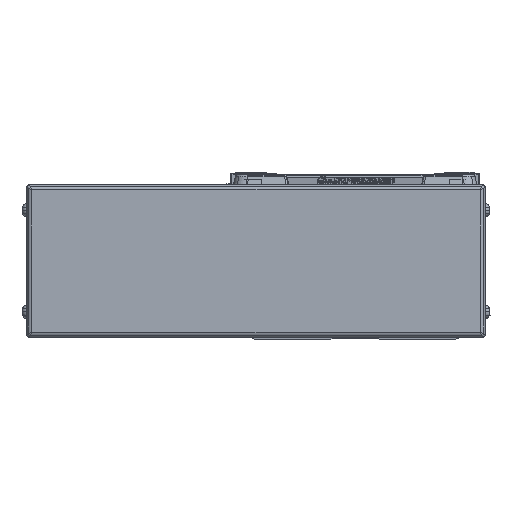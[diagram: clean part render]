
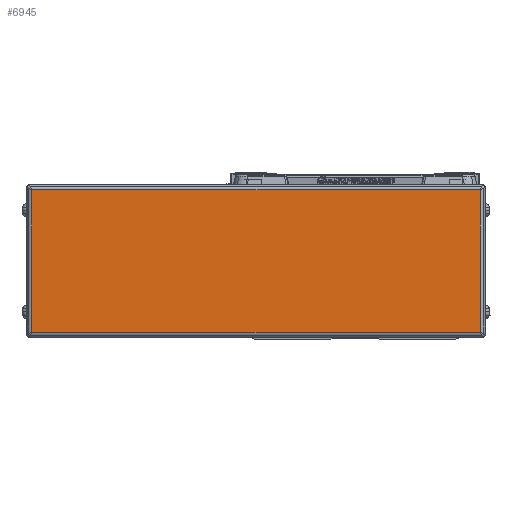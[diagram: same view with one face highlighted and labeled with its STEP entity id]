
A CAD part, left-side view. The second image highlights one B-rep face of the part: STEP entity #6945.
In plain terms, the highlighted planar face has unit normal (-1, 0, 0).
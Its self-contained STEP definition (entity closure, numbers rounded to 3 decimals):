
#6945=ADVANCED_FACE('',(#14221),#14222,.F.);
#14221=FACE_OUTER_BOUND('',#22501,.T.);
#14222=PLANE('',#22502);
#22501=EDGE_LOOP('',(#42337,#42338,#42339,#42340));
#22502=AXIS2_PLACEMENT_3D('',#42341,#42342,#42343);
#42337=ORIENTED_EDGE('',*,*,#52944,.T.);
#42338=ORIENTED_EDGE('',*,*,#53132,.T.);
#42339=ORIENTED_EDGE('',*,*,#52253,.T.);
#42340=ORIENTED_EDGE('',*,*,#49156,.T.);
#42341=CARTESIAN_POINT('',(-616.,39.,0.));
#42342=DIRECTION('',(1.0,0.,0.));
#42343=DIRECTION('',(0.,0.,1.0));
#49156=EDGE_CURVE('',#60236,#60234,#60237,.T.);
#52253=EDGE_CURVE('',#64524,#60236,#64525,.T.);
#52944=EDGE_CURVE('',#60234,#64921,#65355,.T.);
#53132=EDGE_CURVE('',#64921,#64524,#65565,.T.);
#60234=VERTEX_POINT('',#75038);
#60236=VERTEX_POINT('',#75040);
#60237=LINE('',#75041,#75042);
#64524=VERTEX_POINT('',#81146);
#64525=LINE('',#81147,#81148);
#64921=VERTEX_POINT('',#81687);
#65355=LINE('',#82249,#82250);
#65565=LINE('',#82517,#82518);
#75038=CARTESIAN_POINT('',(-616.,-49.2,28.));
#75040=CARTESIAN_POINT('',(-616.,-49.2,-28.));
#75041=CARTESIAN_POINT('',(-616.,-49.2,0.));
#75042=VECTOR('',#88660,10.0);
#81146=CARTESIAN_POINT('',(-616.0,127.2,-28.));
#81147=CARTESIAN_POINT('',(-616.,39.,-28.));
#81148=VECTOR('',#92281,10.0);
#81687=CARTESIAN_POINT('',(-616.,127.2,28.));
#82249=CARTESIAN_POINT('',(-616.,39.,28.));
#82250=VECTOR('',#93000,10.0);
#82517=CARTESIAN_POINT('',(-616.0,127.2,0.));
#82518=VECTOR('',#93183,10.0);
#88660=DIRECTION('',(0.,0.,1.0));
#92281=DIRECTION('',(0.,-1.0,0.));
#93000=DIRECTION('',(0.,1.0,0.));
#93183=DIRECTION('',(0.,0.,-1.0));
